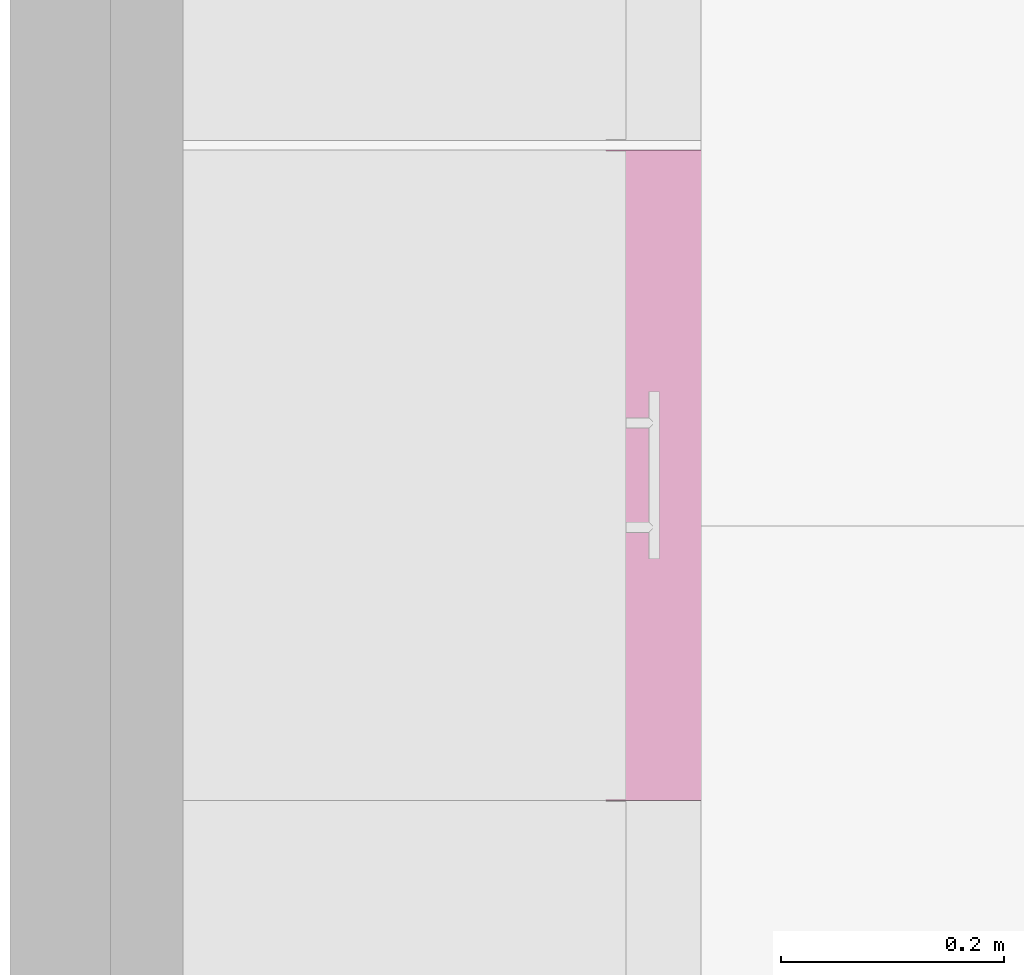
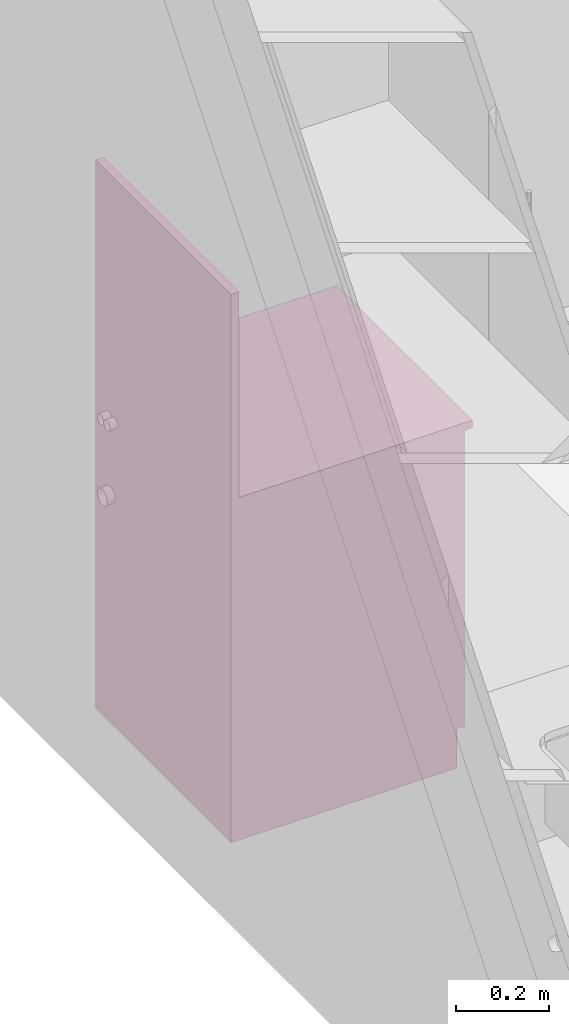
# One storey, part 59 of 60: 1 furnishing.
"""IFC2X3 building model written with IfcOpenShell, lengths in millimetres."""

import ifcopenshell
import ifcopenshell.guid

model = None  # the IFC model being written
_history = None  # IfcOwnerHistory: only IFC2X3 demands one
_inside = {}  # id of a spatial element -> (the spatial element, [elements in it])
_under = {}  # id of a project, library or spatial element -> (it, [spatial elements below it])
_declared = {}  # id of a project -> (the project, [libraries it declares])
_typed = {}  # id of a type object -> (the type object, [elements of that type])
_made_of = {}  # id of a material, layer set ... -> (it, [elements and type objects made of it])


def new_model(schema):
    """Start an empty IFC model of exactly this schema.

    Asked for "IFC4X3", IfcOpenShell would pick the latest addendum, in which some entities
    have other attributes; the version numbers below select the first issue.
    IFC2X3 requires an IfcOwnerHistory on every rooted entity: one is made here for all.
    """
    global model, _history
    if schema == "IFC4X3":
        model = ifcopenshell.file(schema_version=(4, 3, 0, 0))
    else:
        model = ifcopenshell.file(schema=schema)
    _inside.clear()
    _under.clear()
    _declared.clear()
    _typed.clear()
    _made_of.clear()
    _history = None
    if model.schema == "IFC2X3":
        org = make("IfcOrganization", Name="unknown")
        user = make(
            "IfcPersonAndOrganization",
            ThePerson=make("IfcPerson", FamilyName="unknown"),
            TheOrganization=org,
        )
        app = make(
            "IfcApplication",
            ApplicationDeveloper=org,
            Version="unknown",
            ApplicationFullName="unknown",
            ApplicationIdentifier="unknown",
        )
        _history = make(
            "IfcOwnerHistory",
            OwningUser=user,
            OwningApplication=app,
            ChangeAction="ADDED",
            CreationDate=0,
        )
    return model


def make(cls, **values):
    """One entity of the class cls with the attributes given. An attribute that is None is left unset."""
    return model.create_entity(
        cls, **{name: value for name, value in values.items() if value is not None}
    )


def entity(cls, *values):
    """Any entity or typed value of the class cls, its attributes in the order of the schema. None: left unset."""
    e = model.create_entity(cls)
    for i, value in enumerate(values):
        if value is not None:
            e[i] = value
    return e


def rooted(cls, **values):
    """An entity with a GlobalId (a new one), such as an element, a storey or a relation."""
    return make(cls, GlobalId=ifcopenshell.guid.new(), OwnerHistory=_history, **values)


def si_unit(unit_type, name, prefix=None):
    """IfcSIUnit, for example si_unit("LENGTHUNIT", "METRE", prefix="MILLI")."""
    return make("IfcSIUnit", UnitType=unit_type, Prefix=prefix, Name=name)


def converted_unit(unit_type, name, factor, base, dimensions=None, offset=None):
    """IfcConversionBasedUnit, such as the inch: factor (a typed value) times the base unit."""
    return make(
        "IfcConversionBasedUnit"
        if offset is None
        else "IfcConversionBasedUnitWithOffset",
        ConversionOffset=offset,
        Dimensions=None
        if dimensions is None
        else entity("IfcDimensionalExponents", *dimensions),
        UnitType=unit_type,
        Name=name,
        ConversionFactor=make(
            "IfcMeasureWithUnit", ValueComponent=factor, UnitComponent=base
        ),
    )


def derived_unit(unit_type, elements):
    """IfcDerivedUnit: a product of units, each with its exponent."""
    return make(
        "IfcDerivedUnit",
        Elements=[
            make("IfcDerivedUnitElement", Unit=unit, Exponent=power)
            for unit, power in elements
        ],
        UnitType=unit_type,
    )


def money_unit(currency):
    """IfcMonetaryUnit."""
    return make("IfcMonetaryUnit", Currency=currency)


def assignment(units):
    """IfcUnitAssignment: the units of a project."""
    return None if units is None else make("IfcUnitAssignment", Units=units)


def point(xyz):
    """IfcCartesianPoint."""
    return None if xyz is None else make("IfcCartesianPoint", Coordinates=xyz)


def direction(xyz):
    """IfcDirection."""
    return None if xyz is None else make("IfcDirection", DirectionRatios=xyz)


def frame(location, z_axis=None, x_axis=None):
    """IfcAxis2Placement3D, a coordinate frame: its origin and axes. An axis left out is left unset."""
    return make(
        "IfcAxis2Placement3D",
        Location=point(location),
        Axis=direction(z_axis),
        RefDirection=direction(x_axis),
    )


def origin_with_axes():
    """The frame at (0, 0, 0) with the z axis (0, 0, 1) and the x axis (1, 0, 0) written out."""
    return frame((0.0, 0.0, 0.0), z_axis=(0.0, 0.0, 1.0), x_axis=(1.0, 0.0, 0.0))


def place(relative_to, where):
    """IfcLocalPlacement: puts the frame where relative to a parent placement (None: the world)."""
    return make(
        "IfcLocalPlacement", PlacementRelTo=relative_to, RelativePlacement=where
    )


def context(
    kind, dimensions, precision=None, world=None, true_north=None, identifier=None
):
    """IfcGeometricRepresentationContext, for example the 3D "Model" context."""
    return make(
        "IfcGeometricRepresentationContext",
        ContextIdentifier=identifier,
        ContextType=kind,
        CoordinateSpaceDimension=dimensions,
        Precision=precision,
        WorldCoordinateSystem=world,
        TrueNorth=true_north,
    )


def subcontext(parent, identifier, kind, view, scale=None):
    """IfcGeometricRepresentationSubContext, for example "Body" below "Model"."""
    return make(
        "IfcGeometricRepresentationSubContext",
        ContextIdentifier=identifier,
        ContextType=kind,
        ParentContext=parent,
        TargetScale=scale,
        TargetView=view,
    )


def project(units=None, contexts=None):
    """IfcProject with its units and contexts."""
    return rooted(
        "IfcProject",
        Name="project",
        RepresentationContexts=contexts,
        UnitsInContext=assignment(units),
    )


def spatial(cls, under=None, at=None, **own):
    """A site, building, storey or space (cls), placed at a placement, below another one or the project."""
    s = rooted(cls, ObjectPlacement=at, **own)
    if under is not None:
        _under.setdefault(under.id(), (under, []))[1].append(s)
    return s


def faces_of(points, faces, orient=None, outer=None):
    """IfcFace entities. A face is a list of loops; a loop is a list of indices into points, from 0.

    orient and outer hold one flag for each loop. By default every Orientation is true, the
    first loop of a face is its IfcFaceOuterBound and the others are IfcFaceBound.
    """
    made = []
    for i, loops in enumerate(faces):
        bounds = []
        for j, loop in enumerate(loops):
            is_outer = j == 0 if outer is None else outer[i][j]
            bounds.append(
                make(
                    "IfcFaceOuterBound" if is_outer else "IfcFaceBound",
                    Bound=make("IfcPolyLoop", Polygon=[points[k] for k in loop]),
                    Orientation=True if orient is None else orient[i][j],
                )
            )
        made.append(make("IfcFace", Bounds=bounds))
    return made


def open_shell(faces, orient=None, outer=None):
    """The faces of one IfcOpenShell. surface_model builds it on its shared points."""
    return ("IfcOpenShell", faces, orient, outer)


def faceted_brep(points, faces, orient=None, outer=None, voids=None):
    """IfcFacetedBrep: a solid bounded by flat faces; with voids (closed shells), ...WithVoids."""
    shared = [point(p) for p in points]
    hull = make("IfcClosedShell", CfsFaces=faces_of(shared, faces, orient, outer))
    if voids is None:
        return make("IfcFacetedBrep", Outer=hull)
    return make(
        "IfcFacetedBrepWithVoids",
        Outer=hull,
        Voids=[
            make(cls, CfsFaces=faces_of(shared, fs, o, b)) for cls, fs, o, b in voids
        ],
    )


def surface_model(cls, points, shells):
    """IfcFaceBasedSurfaceModel or IfcShellBasedSurfaceModel (cls): surfaces that need not close."""
    shared = [point(p) for p in points]
    made = [make(c, CfsFaces=faces_of(shared, fs, o, b)) for c, fs, o, b in shells]
    if cls == "IfcFaceBasedSurfaceModel":
        return make(cls, FbsmFaces=made)
    return make(cls, SbsmBoundary=made)


def shape(context_of_items, identifier, shape_type, items):
    """IfcShapeRepresentation: the items that make up one representation, for example the "Body"."""
    return make(
        "IfcShapeRepresentation",
        ContextOfItems=context_of_items,
        RepresentationIdentifier=identifier,
        RepresentationType=shape_type,
        Items=items,
    )


def made_of(thing, what):
    """Note that an element or type object is made of a material, layer set ...; save() writes the relation."""
    if what is not None:
        _made_of.setdefault(what.id(), (what, []))[1].append(thing)
    return thing


def type_object(cls, material=None, **own):
    """A type object (cls), such as IfcWallType, which elements share."""
    return made_of(rooted(cls, **own), material)


def element(
    cls,
    number,
    at=None,
    inside=None,
    cuts=None,
    type_object=None,
    material=None,
    context=None,
    identifier="Body",
    shape_type=None,
    held_by="IfcProductDefinitionShape",
    body=None,
    shapes=None,
    **own,
):
    """One element of the class cls, such as IfcWall. Its Tag is "e" and its number.

    at: its placement. inside: the storey or other place that contains it. cuts: it is an
    opening in that element (IfcRelVoidsElement). A single representation is given by context,
    identifier, shape_type and body (its items); several are given by shapes. held_by: the class
    of the entity that holds the representations. save() writes the other relations.
    """
    e = rooted(cls, Tag="e%d" % number, ObjectPlacement=at, **own)
    if body is not None:
        shapes = [shape(context, identifier, shape_type, body)]
    if shapes is not None:
        e.Representation = make(held_by, Representations=shapes)
    if inside is not None:
        _inside.setdefault(inside.id(), (inside, []))[1].append(e)
    if cuts is not None:
        rooted(
            "IfcRelVoidsElement", RelatingBuildingElement=cuts, RelatedOpeningElement=e
        )
    if type_object is not None:
        _typed.setdefault(type_object.id(), (type_object, []))[1].append(e)
    return made_of(e, material)


def aggregate(whole, parts):
    """IfcRelAggregates: a whole, such as a stair, and the parts it consists of."""
    return rooted("IfcRelAggregates", RelatingObject=whole, RelatedObjects=parts)


def save(model, path):
    """Write the relations noted so far, then the file.

    IfcRelAggregates (storeys below a building ...), IfcRelContainedInSpatialStructure (elements
    in a storey), IfcRelDefinesByType, IfcRelAssociatesMaterial and IfcRelDeclares: one each for
    every whole, place, type object, material and project.
    """
    for whole, parts in _under.values():
        aggregate(whole, parts)
    for where, things in _inside.values():
        rooted(
            "IfcRelContainedInSpatialStructure",
            RelatedElements=things,
            RelatingStructure=where,
        )
    for kind, things in _typed.values():
        rooted("IfcRelDefinesByType", RelatedObjects=things, RelatingType=kind)
    for what, things in _made_of.values():
        rooted("IfcRelAssociatesMaterial", RelatedObjects=things, RelatingMaterial=what)
    for by, libraries in _declared.values():
        rooted("IfcRelDeclares", RelatingContext=by, RelatedDefinitions=libraries)
    model.write(path)


model = new_model("IFC2X3")

# Units and contexts
model_context = context("Model", 3, precision=0.01, world=origin_with_axes(), true_north=direction((0.0, 1.0)))
body_context = subcontext(model_context, "Body", "Model", "MODEL_VIEW")
ifc_project = project(units=[si_unit("LENGTHUNIT", "METRE", prefix="MILLI"), si_unit("AREAUNIT", "SQUARE_METRE"), si_unit("VOLUMEUNIT", "CUBIC_METRE"), converted_unit("PLANEANGLEUNIT", "DEGREE", entity("IfcPlaneAngleMeasure", 0.0174532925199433), si_unit("PLANEANGLEUNIT", "RADIAN"), dimensions=[0, 0, 0, 0, 0, 0, 0]), money_unit("USD"), converted_unit("TIMEUNIT", "Year", entity("IfcTimeMeasure", 31557600.0), si_unit("TIMEUNIT", "SECOND"), dimensions=[0, 0, 1, 0, 0, 0, 0]), si_unit("MASSUNIT", "GRAM", prefix="KILO"), si_unit("THERMODYNAMICTEMPERATUREUNIT", "DEGREE_CELSIUS"), si_unit("LUMINOUSINTENSITYUNIT", "LUMEN"), si_unit("ENERGYUNIT", "JOULE", prefix="MEGA"), derived_unit("THERMALCONDUCTANCEUNIT", [(si_unit("POWERUNIT", "WATT"), 1), (si_unit("LENGTHUNIT", "METRE"), -1), (si_unit("THERMODYNAMICTEMPERATUREUNIT", "KELVIN"), -1)]), derived_unit("SPECIFICHEATCAPACITYUNIT", [(si_unit("ENERGYUNIT", "JOULE"), 1), (si_unit("MASSUNIT", "GRAM", prefix="KILO"), -1), (si_unit("THERMODYNAMICTEMPERATUREUNIT", "KELVIN"), -1)]), derived_unit("MASSDENSITYUNIT", [(si_unit("MASSUNIT", "GRAM", prefix="KILO"), 1), (si_unit("VOLUMEUNIT", "CUBIC_METRE"), -1)])], contexts=[model_context])

# Site, building, storey
site_placement = place(None, origin_with_axes())
site = spatial("IfcSite", under=ifc_project, at=site_placement, Name="Sitio", CompositionType="ELEMENT")
building_placement = place(site_placement, origin_with_axes())
building = spatial("IfcBuilding", under=site, at=building_placement, Name="Construcción", CompositionType="ELEMENT")
storey_placement = place(building_placement, frame((0.0, 0.0, 3650.0), z_axis=(0.0, 0.0, 1.0), x_axis=(1.0, 0.0, 0.0)))
storey = spatial("IfcBuildingStorey", under=building, at=storey_placement, Name="PLANTA 2ª", CompositionType="ELEMENT", Elevation=3650.0)

# Furnishing
furnishing_element_type = type_object("IfcFurnishingElementType", Name="Módulo Base Doble Puerta 24")
furnishing_placement = place(storey_placement, frame((-22363.41789761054, 771.0241762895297, 0.0), z_axis=(0.0, 0.0, 1.0), x_axis=(0.0, 1.0, 0.0)))
element("IfcFurnishingElement", 1, at=furnishing_placement, inside=storey, type_object=furnishing_element_type, Name="60.20.52 Armari", context=body_context, shape_type="SurfaceModel", body=[
    surface_model("IfcShellBasedSurfaceModel", [(500.0, 600.0000000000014, 786.5000000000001), (496.505942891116, 600.0000000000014, 786.9600013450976), (496.505942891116, 620.0000000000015, 786.9600013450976), (500.0, 620.0000000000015, 786.5000000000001), (493.25, 600.0000000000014, 788.3086570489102), (493.25, 620.0000000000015, 788.3086570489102), (503.4940571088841, 600.0000000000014, 786.9600013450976), (503.4940571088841, 620.0000000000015, 786.9600013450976), (490.4540584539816, 600.0000000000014, 790.4540584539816), (490.4540584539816, 620.0000000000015, 790.4540584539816), (506.7500000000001, 600.0000000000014, 788.3086570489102), (506.7500000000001, 620.0000000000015, 788.3086570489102), (488.30865704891, 600.0000000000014, 793.25), (488.30865704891, 620.0000000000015, 793.25), (509.5459415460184, 600.0000000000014, 790.4540584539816), (509.5459415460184, 620.0000000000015, 790.4540584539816), (486.9600013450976, 600.0000000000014, 796.505942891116), (486.9600013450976, 620.0000000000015, 796.505942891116), (511.69134295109, 600.0000000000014, 793.25), (511.69134295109, 620.0000000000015, 793.25), (486.5, 600.0000000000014, 800.0), (486.5, 620.0000000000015, 800.0), (513.0399986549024, 600.0000000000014, 796.505942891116), (513.0399986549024, 620.0000000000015, 796.505942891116), (486.9600013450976, 600.0000000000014, 803.4940571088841), (486.9600013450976, 620.0000000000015, 803.4940571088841), (513.5, 600.0000000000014, 800.0), (513.5, 620.0000000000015, 800.0), (488.30865704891, 600.0000000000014, 806.7500000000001), (488.30865704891, 620.0000000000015, 806.7500000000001), (513.0399986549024, 600.0000000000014, 803.4940571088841), (513.0399986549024, 620.0000000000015, 803.4940571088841), (490.4540584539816, 600.0000000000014, 809.5459415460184), (490.4540584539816, 620.0000000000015, 809.5459415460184), (511.6913429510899, 600.0000000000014, 806.7500000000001), (511.6913429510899, 620.0000000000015, 806.7500000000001), (493.2499999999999, 600.0000000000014, 811.69134295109), (493.2499999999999, 620.0000000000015, 811.69134295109), (509.5459415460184, 600.0000000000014, 809.5459415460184), (509.5459415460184, 620.0000000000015, 809.5459415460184), (496.5059428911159, 600.0000000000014, 813.0399986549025), (496.5059428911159, 620.0000000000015, 813.0399986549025), (506.7500000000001, 600.0000000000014, 811.6913429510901), (506.7500000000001, 620.0000000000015, 811.6913429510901), (500.0, 600.0000000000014, 813.5), (500.0, 620.0000000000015, 813.5), (503.4940571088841, 600.0000000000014, 813.0399986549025), (503.4940571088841, 620.0000000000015, 813.0399986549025)], [open_shell([[[0, 1, 2, 3]], [[1, 4, 5, 2]], [[6, 0, 3, 7]], [[4, 8, 9, 5]], [[10, 6, 7, 11]], [[8, 12, 13, 9]], [[14, 10, 11, 15]], [[12, 16, 17, 13]], [[18, 14, 15, 19]], [[16, 20, 21, 17]], [[22, 18, 19, 23]], [[20, 24, 25, 21]], [[26, 22, 23, 27]], [[24, 28, 29, 25]], [[30, 26, 27, 31]], [[28, 32, 33, 29]], [[34, 30, 31, 35]], [[32, 36, 37, 33]], [[38, 34, 35, 39]], [[36, 40, 41, 37]], [[42, 38, 39, 43]], [[40, 44, 45, 41]], [[46, 42, 43, 47]], [[44, 46, 47, 45]]])]),
    surface_model("IfcShellBasedSurfaceModel", [(527.3807475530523, 600.0000000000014, 786.5000000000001), (523.8866904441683, 600.0000000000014, 786.9600013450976), (523.8866904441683, 620.0000000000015, 786.9600013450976), (527.3807475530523, 620.0000000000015, 786.5000000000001), (520.6307475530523, 600.0000000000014, 788.3086570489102), (520.6307475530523, 620.0000000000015, 788.3086570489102), (530.8748046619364, 600.0000000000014, 786.9600013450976), (530.8748046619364, 620.0000000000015, 786.9600013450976), (517.8348060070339, 600.0000000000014, 790.4540584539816), (517.8348060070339, 620.0000000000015, 790.4540584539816), (534.1307475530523, 600.0000000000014, 788.3086570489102), (534.1307475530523, 620.0000000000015, 788.3086570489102), (515.6894046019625, 600.0000000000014, 793.25), (515.6894046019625, 620.0000000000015, 793.25), (536.9266890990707, 600.0000000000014, 790.4540584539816), (536.9266890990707, 620.0000000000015, 790.4540584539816), (514.3407488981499, 600.0000000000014, 796.505942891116), (514.3407488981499, 620.0000000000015, 796.505942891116), (539.0720905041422, 600.0000000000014, 793.25), (539.0720905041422, 620.0000000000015, 793.25), (513.8807475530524, 600.0000000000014, 800.0), (513.8807475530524, 620.0000000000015, 800.0), (540.4207462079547, 600.0000000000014, 796.505942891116), (540.4207462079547, 620.0000000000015, 796.505942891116), (514.3407488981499, 600.0000000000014, 803.4940571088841), (514.3407488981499, 620.0000000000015, 803.4940571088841), (540.8807475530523, 600.0000000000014, 800.0), (540.8807475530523, 620.0000000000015, 800.0), (515.6894046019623, 600.0000000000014, 806.7500000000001), (515.6894046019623, 620.0000000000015, 806.7500000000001), (540.4207462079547, 600.0000000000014, 803.4940571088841), (540.4207462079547, 620.0000000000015, 803.4940571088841), (517.8348060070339, 600.0000000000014, 809.5459415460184), (517.8348060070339, 620.0000000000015, 809.5459415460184), (539.0720905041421, 600.0000000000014, 806.7500000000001), (539.0720905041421, 620.0000000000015, 806.7500000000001), (520.6307475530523, 600.0000000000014, 811.69134295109), (520.6307475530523, 620.0000000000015, 811.69134295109), (536.9266890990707, 600.0000000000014, 809.5459415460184), (536.9266890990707, 620.0000000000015, 809.5459415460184), (523.8866904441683, 600.0000000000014, 813.0399986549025), (523.8866904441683, 620.0000000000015, 813.0399986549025), (534.1307475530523, 600.0000000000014, 811.6913429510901), (534.1307475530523, 620.0000000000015, 811.6913429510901), (527.3807475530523, 600.0000000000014, 813.5), (527.3807475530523, 620.0000000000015, 813.5), (530.8748046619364, 600.0000000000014, 813.0399986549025), (530.8748046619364, 620.0000000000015, 813.0399986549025)], [open_shell([[[0, 1, 2, 3]], [[1, 4, 5, 2]], [[6, 0, 3, 7]], [[4, 8, 9, 5]], [[10, 6, 7, 11]], [[8, 12, 13, 9]], [[14, 10, 11, 15]], [[12, 16, 17, 13]], [[18, 14, 15, 19]], [[16, 20, 21, 17]], [[22, 18, 19, 23]], [[20, 24, 25, 21]], [[26, 22, 23, 27]], [[24, 28, 29, 25]], [[30, 26, 27, 31]], [[28, 32, 33, 29]], [[34, 30, 31, 35]], [[32, 36, 37, 33]], [[38, 34, 35, 39]], [[36, 40, 41, 37]], [[42, 38, 39, 43]], [[40, 44, 45, 41]], [[46, 42, 43, 47]], [[44, 46, 47, 45]]])]),
    surface_model("IfcShellBasedSurfaceModel", [(519.8807475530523, 600.0000000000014, 579.0), (514.4455476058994, 600.0000000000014, 579.7155576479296), (514.4455476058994, 620.0000000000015, 579.7155576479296), (519.8807475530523, 620.0000000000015, 579.0), (509.3807475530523, 600.0000000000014, 581.8134665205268), (509.3807475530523, 620.0000000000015, 581.8134665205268), (525.3159475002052, 600.0000000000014, 579.7155576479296), (525.3159475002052, 620.0000000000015, 579.7155576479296), (505.0315051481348, 600.0000000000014, 585.1507575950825), (505.0315051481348, 620.0000000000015, 585.1507575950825), (530.3807475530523, 600.0000000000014, 581.8134665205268), (530.3807475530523, 620.0000000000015, 581.8134665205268), (501.6942140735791, 600.0000000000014, 589.5), (501.6942140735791, 620.0000000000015, 589.5), (534.7299899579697, 600.0000000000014, 585.1507575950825), (534.7299899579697, 620.0000000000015, 585.1507575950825), (499.5963052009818, 600.0000000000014, 594.5648000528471), (499.5963052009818, 620.0000000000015, 594.5648000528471), (538.0672810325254, 600.0000000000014, 589.5), (538.0672810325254, 620.0000000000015, 589.5), (498.8807475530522, 600.0000000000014, 600.0), (498.8807475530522, 620.0000000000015, 600.0), (540.1651899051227, 600.0000000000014, 594.5648000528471), (540.1651899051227, 620.0000000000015, 594.5648000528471), (499.5963052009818, 600.0000000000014, 605.4351999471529), (499.5963052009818, 620.0000000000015, 605.4351999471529), (540.8807475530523, 600.0000000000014, 600.0), (540.8807475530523, 620.0000000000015, 600.0), (501.6942140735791, 600.0000000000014, 610.4999999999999), (501.6942140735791, 620.0000000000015, 610.4999999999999), (540.1651899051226, 600.0000000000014, 605.4351999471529), (540.1651899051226, 620.0000000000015, 605.4351999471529), (505.0315051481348, 600.0000000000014, 614.8492424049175), (505.0315051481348, 620.0000000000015, 614.8492424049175), (538.0672810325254, 600.0000000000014, 610.5), (538.0672810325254, 620.0000000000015, 610.5), (509.3807475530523, 600.0000000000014, 618.1865334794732), (509.3807475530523, 620.0000000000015, 618.1865334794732), (534.7299899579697, 600.0000000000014, 614.8492424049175), (534.7299899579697, 620.0000000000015, 614.8492424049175), (514.4455476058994, 600.0000000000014, 620.2844423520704), (514.4455476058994, 620.0000000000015, 620.2844423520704), (530.3807475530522, 600.0000000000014, 618.1865334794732), (530.3807475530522, 620.0000000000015, 618.1865334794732), (519.8807475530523, 600.0000000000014, 621.0), (519.8807475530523, 620.0000000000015, 621.0), (525.3159475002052, 600.0000000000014, 620.2844423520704), (525.3159475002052, 620.0000000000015, 620.2844423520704)], [open_shell([[[0, 1, 2, 3]], [[1, 4, 5, 2]], [[6, 0, 3, 7]], [[4, 8, 9, 5]], [[10, 6, 7, 11]], [[8, 12, 13, 9]], [[14, 10, 11, 15]], [[12, 16, 17, 13]], [[18, 14, 15, 19]], [[16, 20, 21, 17]], [[22, 18, 19, 23]], [[20, 24, 25, 21]], [[26, 22, 23, 27]], [[24, 28, 29, 25]], [[30, 26, 27, 31]], [[28, 32, 33, 29]], [[34, 30, 31, 35]], [[32, 36, 37, 33]], [[38, 34, 35, 39]], [[36, 40, 41, 37]], [[42, 38, 39, 43]], [[40, 44, 45, 41]], [[46, 42, 43, 47]], [[44, 46, 47, 45]]])]),
    faceted_brep([(0.0, 39.0, 0.0), (583.828879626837, 39.0, 0.0), (583.828879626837, 39.0, 100.0), (0.0, 39.0, 100.0), (0.0, 600.0000000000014, 0.0), (583.828879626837, 600.0000000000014, 0.0), (583.828879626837, 600.0000000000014, 100.0), (0.0, 600.0000000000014, 100.0)], [[[0, 1, 2, 3]], [[0, 4, 5, 1]], [[1, 5, 6, 2]], [[3, 2, 6, 7]], [[4, 0, 3, 7]], [[5, 4, 7, 6]]]),
    faceted_brep([(0.0, 39.0, 860.0), (20.0, 39.0, 860.0), (20.0, 39.0, 880.0), (0.0, 39.0, 880.0), (0.0, 600.0000000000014, 860.0), (20.0, 600.0000000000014, 860.0), (563.828879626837, 600.0000000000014, 860.0), (583.828879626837, 600.0000000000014, 860.0), (583.828879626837, 39.0, 860.0), (563.828879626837, 39.0, 860.0), (563.828879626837, 39.0, 880.0), (583.828879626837, 39.0, 880.0), (583.828879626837, 600.0000000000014, 880.0), (563.828879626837, 600.0000000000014, 880.0), (20.0, 600.0000000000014, 880.0), (0.0, 600.0000000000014, 880.0)], [[[0, 1, 2, 3]], [[0, 4, 5, 6, 7, 8, 9, 1]], [[1, 9, 10, 2]], [[3, 2, 10, 11, 12, 13, 14, 15]], [[4, 0, 3, 15]], [[5, 4, 15, 14]], [[6, 5, 14, 13]], [[7, 6, 13, 12]], [[8, 7, 12, 11]], [[9, 8, 11, 10]]]),
    faceted_brep([(0.0, 39.0, 100.0), (20.0, 39.0, 100.0), (20.0, 39.0, 120.0), (0.0, 39.0, 120.0), (0.0, 600.0000000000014, 100.0), (20.0, 600.0000000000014, 100.0), (563.828879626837, 600.0000000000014, 100.0), (583.828879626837, 600.0000000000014, 100.0), (583.828879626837, 39.0, 100.0), (563.828879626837, 39.0, 100.0), (563.828879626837, 39.0, 120.0), (583.828879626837, 39.0, 120.0), (583.828879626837, 600.0000000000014, 120.0), (563.828879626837, 600.0000000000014, 120.0), (20.0, 600.0000000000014, 120.0), (0.0, 600.0000000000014, 120.0)], [[[0, 1, 2, 3]], [[0, 4, 5, 6, 7, 8, 9, 1]], [[1, 9, 10, 2]], [[3, 2, 10, 11, 12, 13, 14, 15]], [[4, 0, 3, 15]], [[5, 4, 15, 14]], [[6, 5, 14, 13]], [[7, 6, 13, 12]], [[8, 7, 12, 11]], [[9, 8, 11, 10]]]),
    faceted_brep([(0.0, 39.0, 120.0), (20.0, 39.0, 120.0), (20.0, 39.0, 860.0), (0.0, 39.0, 860.0), (0.0, 600.0000000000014, 120.0), (583.828879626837, 600.0000000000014, 120.0), (583.828879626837, 39.0, 120.0), (563.828879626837, 39.0, 120.0), (563.828879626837, 580.0000000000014, 120.0), (20.0, 580.0000000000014, 120.0), (20.0, 580.0000000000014, 860.0), (563.828879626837, 580.0000000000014, 860.0), (563.828879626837, 39.0, 860.0), (583.828879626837, 39.0, 860.0), (583.828879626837, 600.0000000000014, 860.0), (0.0, 600.0000000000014, 860.0)], [[[0, 1, 2, 3]], [[0, 4, 5, 6, 7, 8, 9, 1]], [[1, 9, 10, 2]], [[3, 2, 10, 11, 12, 13, 14, 15]], [[4, 0, 3, 15]], [[5, 4, 15, 14]], [[6, 5, 14, 13]], [[7, 6, 13, 12]], [[8, 7, 12, 11]], [[9, 8, 11, 10]]]),
    faceted_brep([(563.828879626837, 39.0, 470.0), (563.828879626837, 580.0000000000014, 470.0), (563.828879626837, 580.0000000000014, 490.0), (563.828879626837, 39.0, 490.0), (20.0, 39.0, 470.0), (20.0, 580.0000000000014, 470.0), (20.0, 580.0000000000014, 490.0), (20.0, 39.0, 490.0)], [[[0, 1, 2, 3]], [[0, 4, 5, 1]], [[1, 5, 6, 2]], [[3, 2, 6, 7]], [[4, 0, 3, 7]], [[5, 4, 7, 6]]]),
    faceted_brep([(0.0, 0.0, 880.0), (583.828879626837, 0.0, 880.0), (583.828879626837, 0.0, 900.0), (0.0, 0.0, 900.0), (0.0, 600.0000000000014, 880.0), (583.828879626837, 600.0000000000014, 880.0), (583.828879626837, 600.0000000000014, 900.0), (0.0, 600.0000000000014, 900.0)], [[[0, 1, 2, 3]], [[0, 4, 5, 1]], [[1, 5, 6, 2]], [[3, 2, 6, 7]], [[4, 0, 3, 7]], [[5, 4, 7, 6]]]),
    faceted_brep([(0.0, 580.0000000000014, 900.0), (583.828879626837, 580.0000000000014, 900.0), (583.828879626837, 580.0000000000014, 1440.0), (0.0, 580.0000000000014, 1440.0), (0.0, 600.0000000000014, 900.0), (583.828879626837, 600.0000000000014, 900.0), (583.828879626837, 600.0000000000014, 1440.0), (0.0, 600.0000000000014, 1440.0)], [[[0, 1, 2, 3]], [[0, 4, 5, 1]], [[1, 5, 6, 2]], [[3, 2, 6, 7]], [[4, 0, 3, 7]], [[5, 4, 7, 6]]]),
    faceted_brep([(1.500000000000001, 39.0, 101.5), (290.4144398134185, 39.0, 101.5), (290.4144398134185, 19.0, 101.5), (1.500000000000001, 19.0, 101.5), (1.500000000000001, 39.00000000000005, 878.5000000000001), (290.4144398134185, 39.00000000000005, 878.5000000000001), (290.4144398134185, 19.00000000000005, 878.5000000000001), (1.500000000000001, 19.00000000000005, 878.5000000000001)], [[[0, 1, 2, 3]], [[0, 4, 5, 1]], [[1, 5, 6, 2]], [[3, 2, 6, 7]], [[4, 0, 3, 7]], [[5, 4, 7, 6]]]),
    faceted_brep([(243.1860784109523, -9.148050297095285, 391.5), (242.5357601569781, -10.12132034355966, 391.5), (241.5624901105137, -10.77163859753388, 391.5), (240.4144398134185, -11.00000000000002, 391.5), (239.2663895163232, -10.77163859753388, 391.5), (238.2931194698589, -10.12132034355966, 391.5), (237.6428012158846, -9.148050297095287, 391.5), (237.4144398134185, -8.000000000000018, 391.5), (237.6428012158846, -6.851949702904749, 391.5), (238.2931194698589, -5.878679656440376, 391.5), (239.2663895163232, -5.228361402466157, 391.5), (240.4144398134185, -5.000000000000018, 391.5), (241.5624901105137, -5.228361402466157, 391.5), (242.5357601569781, -5.878679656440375, 391.5), (243.1860784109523, -6.851949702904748, 391.5), (243.4144398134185, -8.000000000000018, 391.5), (243.1860784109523, -9.148050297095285, 691.5), (242.5357601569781, -10.12132034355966, 691.5), (241.5624901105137, -10.77163859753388, 691.5), (240.4144398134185, -11.00000000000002, 691.5), (239.2663895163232, -10.77163859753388, 691.5), (238.2931194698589, -10.12132034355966, 691.5), (237.6428012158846, -9.148050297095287, 691.5), (237.4144398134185, -8.000000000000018, 691.5), (237.6428012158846, -6.851949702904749, 691.5), (238.2931194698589, -5.878679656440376, 691.5), (239.2663895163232, -5.228361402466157, 691.5), (240.4144398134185, -5.000000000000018, 691.5), (241.5624901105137, -5.228361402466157, 691.5), (242.5357601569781, -5.878679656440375, 691.5), (243.1860784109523, -6.851949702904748, 691.5), (243.4144398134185, -8.000000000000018, 691.5)], [[[0, 1, 2, 3, 4, 5, 6, 7, 8, 9, 10, 11, 12, 13, 14, 15]], [[1, 0, 16, 17]], [[2, 1, 17, 18]], [[3, 2, 18, 19]], [[4, 3, 19, 20]], [[5, 4, 20, 21]], [[6, 5, 21, 22]], [[7, 6, 22, 23]], [[8, 7, 23, 24]], [[9, 8, 24, 25]], [[10, 9, 25, 26]], [[11, 10, 26, 27]], [[12, 11, 27, 28]], [[13, 12, 28, 29]], [[14, 13, 29, 30]], [[15, 14, 30, 31]], [[0, 15, 31, 16]], [[16, 31, 30, 29, 28, 27, 26, 25, 24, 23, 22, 21, 20, 19, 18, 17]]]),
    surface_model("IfcShellBasedSurfaceModel", [(241.3711483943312, -5.156637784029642, 414.1903011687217), (240.4144398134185, -5.000000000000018, 413.9999999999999), (240.4144398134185, 18.99999999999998, 413.9999999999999), (241.3711483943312, 18.99999999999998, 414.1903011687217), (239.4577312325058, -5.156637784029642, 414.1903011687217), (239.4577312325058, 18.99999999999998, 414.1903011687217), (238.6466728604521, 18.99999999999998, 414.7322330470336), (238.1047409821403, 18.99999999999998, 415.5432914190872), (237.9144398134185, 18.99999999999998, 416.4999999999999), (238.1047409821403, 18.99999999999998, 417.4567085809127), (238.6466728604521, 18.99999999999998, 418.2677669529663), (239.4577312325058, 18.99999999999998, 418.8096988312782), (240.4144398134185, 18.99999999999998, 418.9999999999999), (241.3711483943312, 18.99999999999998, 418.8096988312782), (242.1822067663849, 18.99999999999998, 418.2677669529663), (242.7241386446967, 18.99999999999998, 417.4567085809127), (242.9144398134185, 18.99999999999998, 416.4999999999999), (242.7241386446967, 18.99999999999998, 415.5432914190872), (242.1822067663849, 18.99999999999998, 414.7322330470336), (242.1822067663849, -5.576160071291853, 414.7322330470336), (238.6466728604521, -5.576160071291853, 414.7322330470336), (238.1047409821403, -6.085504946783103, 415.5432914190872), (237.9144398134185, -6.341687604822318, 416.4999999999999), (238.1047409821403, -6.085504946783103, 417.4567085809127), (238.6466728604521, -5.576160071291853, 418.2677669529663), (239.4577312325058, -5.156637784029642, 418.8096988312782), (240.4144398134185, -5.000000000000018, 418.9999999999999), (241.3711483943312, -5.156637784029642, 418.8096988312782), (242.1822067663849, -5.576160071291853, 418.2677669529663), (242.7241386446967, -6.085504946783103, 417.4567085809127), (242.9144398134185, -6.341687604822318, 416.4999999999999), (242.7241386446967, -6.085504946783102, 415.5432914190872)], [open_shell([[[0, 1, 2, 3]], [[1, 4, 5, 2]], [[3, 2, 5, 6, 7, 8, 9, 10, 11, 12, 13, 14, 15, 16, 17, 18]], [[19, 0, 3, 18]], [[4, 20, 6, 5]], [[20, 21, 7, 6]], [[21, 22, 8, 7]], [[22, 23, 9, 8]], [[23, 24, 10, 9]], [[24, 25, 11, 10]], [[25, 26, 12, 11]], [[26, 27, 13, 12]], [[27, 28, 14, 13]], [[28, 29, 15, 14]], [[29, 30, 16, 15]], [[30, 31, 17, 16]], [[31, 19, 18, 17]]])]),
    surface_model("IfcShellBasedSurfaceModel", [(241.3711483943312, -5.156637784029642, 664.1903011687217), (240.4144398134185, -5.000000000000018, 663.9999999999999), (240.4144398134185, 18.99999999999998, 663.9999999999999), (241.3711483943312, 18.99999999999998, 664.1903011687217), (239.4577312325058, -5.156637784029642, 664.1903011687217), (239.4577312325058, 18.99999999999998, 664.1903011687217), (238.6466728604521, 18.99999999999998, 664.7322330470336), (238.1047409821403, 18.99999999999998, 665.5432914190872), (237.9144398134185, 18.99999999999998, 666.4999999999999), (238.1047409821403, 18.99999999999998, 667.4567085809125), (238.6466728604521, 18.99999999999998, 668.2677669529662), (239.4577312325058, 18.99999999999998, 668.8096988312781), (240.4144398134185, 18.99999999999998, 668.9999999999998), (241.3711483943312, 18.99999999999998, 668.8096988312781), (242.1822067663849, 18.99999999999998, 668.2677669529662), (242.7241386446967, 18.99999999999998, 667.4567085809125), (242.9144398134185, 18.99999999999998, 666.4999999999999), (242.7241386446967, 18.99999999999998, 665.5432914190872), (242.1822067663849, 18.99999999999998, 664.7322330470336), (242.1822067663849, -5.576160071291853, 664.7322330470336), (238.6466728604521, -5.576160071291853, 664.7322330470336), (238.1047409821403, -6.085504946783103, 665.5432914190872), (237.9144398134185, -6.341687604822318, 666.4999999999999), (238.1047409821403, -6.085504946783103, 667.4567085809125), (238.6466728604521, -5.576160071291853, 668.2677669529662), (239.4577312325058, -5.156637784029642, 668.8096988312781), (240.4144398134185, -5.000000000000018, 668.9999999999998), (241.3711483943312, -5.156637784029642, 668.8096988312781), (242.1822067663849, -5.576160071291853, 668.2677669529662), (242.7241386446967, -6.085504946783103, 667.4567085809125), (242.9144398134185, -6.341687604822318, 666.4999999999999), (242.7241386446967, -6.085504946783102, 665.5432914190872)], [open_shell([[[0, 1, 2, 3]], [[1, 4, 5, 2]], [[3, 2, 5, 6, 7, 8, 9, 10, 11, 12, 13, 14, 15, 16, 17, 18]], [[19, 0, 3, 18]], [[4, 20, 6, 5]], [[20, 21, 7, 6]], [[21, 22, 8, 7]], [[22, 23, 9, 8]], [[23, 24, 10, 9]], [[24, 25, 11, 10]], [[25, 26, 12, 11]], [[26, 27, 13, 12]], [[27, 28, 14, 13]], [[28, 29, 15, 14]], [[29, 30, 16, 15]], [[30, 31, 17, 16]], [[31, 19, 18, 17]]])]),
    faceted_brep([(582.328879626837, 39.0, 101.5), (582.328879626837, 19.0, 101.5), (293.4144398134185, 19.0, 101.5), (293.4144398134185, 39.0, 101.5), (582.328879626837, 39.00000000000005, 878.5000000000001), (582.328879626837, 19.00000000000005, 878.5000000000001), (293.4144398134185, 19.00000000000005, 878.5000000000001), (293.4144398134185, 39.00000000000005, 878.5000000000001)], [[[0, 1, 2, 3]], [[4, 5, 1, 0]], [[1, 5, 6, 2]], [[3, 2, 6, 7]], [[0, 3, 7, 4]], [[7, 6, 5, 4]]]),
    faceted_brep([(340.6428012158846, -9.148050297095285, 391.5), (340.4144398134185, -8.000000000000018, 391.5), (340.6428012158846, -6.851949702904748, 391.5), (341.2931194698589, -5.878679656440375, 391.5), (342.2663895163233, -5.228361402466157, 391.5), (343.4144398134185, -5.000000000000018, 391.5), (344.5624901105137, -5.228361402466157, 391.5), (345.5357601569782, -5.878679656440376, 391.5), (346.1860784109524, -6.851949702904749, 391.5), (346.4144398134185, -8.000000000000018, 391.5), (346.1860784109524, -9.148050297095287, 391.5), (345.5357601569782, -10.12132034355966, 391.5), (344.5624901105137, -10.77163859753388, 391.5), (343.4144398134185, -11.00000000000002, 391.5), (342.2663895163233, -10.77163859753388, 391.5), (341.2931194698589, -10.12132034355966, 391.5), (340.6428012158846, -9.148050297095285, 691.5), (340.4144398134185, -8.000000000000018, 691.5), (340.6428012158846, -6.851949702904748, 691.5), (341.2931194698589, -5.878679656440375, 691.5), (342.2663895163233, -5.228361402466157, 691.5), (343.4144398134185, -5.000000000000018, 691.5), (344.5624901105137, -5.228361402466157, 691.5), (345.5357601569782, -5.878679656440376, 691.5), (346.1860784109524, -6.851949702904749, 691.5), (346.4144398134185, -8.000000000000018, 691.5), (346.1860784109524, -9.148050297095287, 691.5), (345.5357601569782, -10.12132034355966, 691.5), (344.5624901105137, -10.77163859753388, 691.5), (343.4144398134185, -11.00000000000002, 691.5), (342.2663895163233, -10.77163859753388, 691.5), (341.2931194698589, -10.12132034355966, 691.5)], [[[0, 1, 2, 3, 4, 5, 6, 7, 8, 9, 10, 11, 12, 13, 14, 15]], [[0, 16, 17, 1]], [[1, 17, 18, 2]], [[2, 18, 19, 3]], [[3, 19, 20, 4]], [[4, 20, 21, 5]], [[5, 21, 22, 6]], [[6, 22, 23, 7]], [[7, 23, 24, 8]], [[8, 24, 25, 9]], [[9, 25, 26, 10]], [[10, 26, 27, 11]], [[11, 27, 28, 12]], [[12, 28, 29, 13]], [[13, 29, 30, 14]], [[14, 30, 31, 15]], [[15, 31, 16, 0]], [[16, 31, 30, 29, 28, 27, 26, 25, 24, 23, 22, 21, 20, 19, 18, 17]]]),
    surface_model("IfcShellBasedSurfaceModel", [(342.4577312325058, -5.156637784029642, 414.1903011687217), (342.4577312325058, 18.99999999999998, 414.1903011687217), (343.4144398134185, 18.99999999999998, 413.9999999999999), (343.4144398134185, -5.000000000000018, 413.9999999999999), (341.6466728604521, -5.576160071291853, 414.7322330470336), (341.6466728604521, 18.99999999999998, 414.7322330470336), (341.1047409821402, 18.99999999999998, 415.5432914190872), (340.9144398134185, 18.99999999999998, 416.4999999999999), (341.1047409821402, 18.99999999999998, 417.4567085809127), (341.6466728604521, 18.99999999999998, 418.2677669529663), (342.4577312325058, 18.99999999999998, 418.8096988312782), (343.4144398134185, 18.99999999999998, 418.9999999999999), (344.3711483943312, 18.99999999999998, 418.8096988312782), (345.1822067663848, 18.99999999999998, 418.2677669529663), (345.7241386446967, 18.99999999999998, 417.4567085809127), (345.9144398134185, 18.99999999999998, 416.4999999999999), (345.7241386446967, 18.99999999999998, 415.5432914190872), (345.1822067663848, 18.99999999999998, 414.7322330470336), (344.3711483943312, 18.99999999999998, 414.1903011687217), (344.3711483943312, -5.156637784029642, 414.1903011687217), (341.1047409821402, -6.085504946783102, 415.5432914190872), (340.9144398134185, -6.341687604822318, 416.4999999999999), (341.1047409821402, -6.085504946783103, 417.4567085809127), (341.6466728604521, -5.576160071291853, 418.2677669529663), (342.4577312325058, -5.156637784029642, 418.8096988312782), (343.4144398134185, -5.000000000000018, 418.9999999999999), (344.3711483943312, -5.156637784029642, 418.8096988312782), (345.1822067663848, -5.576160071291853, 418.2677669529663), (345.7241386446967, -6.085504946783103, 417.4567085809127), (345.9144398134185, -6.341687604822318, 416.4999999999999), (345.7241386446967, -6.085504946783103, 415.5432914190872), (345.1822067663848, -5.576160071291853, 414.7322330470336)], [open_shell([[[0, 1, 2, 3]], [[4, 5, 1, 0]], [[1, 5, 6, 7, 8, 9, 10, 11, 12, 13, 14, 15, 16, 17, 18, 2]], [[3, 2, 18, 19]], [[20, 6, 5, 4]], [[21, 7, 6, 20]], [[22, 8, 7, 21]], [[23, 9, 8, 22]], [[24, 10, 9, 23]], [[25, 11, 10, 24]], [[26, 12, 11, 25]], [[27, 13, 12, 26]], [[28, 14, 13, 27]], [[29, 15, 14, 28]], [[30, 16, 15, 29]], [[31, 17, 16, 30]], [[19, 18, 17, 31]]])]),
    surface_model("IfcShellBasedSurfaceModel", [(342.4577312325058, -5.156637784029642, 664.1903011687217), (342.4577312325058, 18.99999999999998, 664.1903011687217), (343.4144398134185, 18.99999999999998, 663.9999999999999), (343.4144398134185, -5.000000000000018, 663.9999999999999), (341.6466728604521, -5.576160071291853, 664.7322330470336), (341.6466728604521, 18.99999999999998, 664.7322330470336), (341.1047409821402, 18.99999999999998, 665.5432914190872), (340.9144398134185, 18.99999999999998, 666.4999999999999), (341.1047409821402, 18.99999999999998, 667.4567085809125), (341.6466728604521, 18.99999999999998, 668.2677669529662), (342.4577312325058, 18.99999999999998, 668.8096988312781), (343.4144398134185, 18.99999999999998, 668.9999999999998), (344.3711483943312, 18.99999999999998, 668.8096988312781), (345.1822067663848, 18.99999999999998, 668.2677669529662), (345.7241386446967, 18.99999999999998, 667.4567085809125), (345.9144398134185, 18.99999999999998, 666.4999999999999), (345.7241386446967, 18.99999999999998, 665.5432914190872), (345.1822067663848, 18.99999999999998, 664.7322330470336), (344.3711483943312, 18.99999999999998, 664.1903011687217), (344.3711483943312, -5.156637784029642, 664.1903011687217), (341.1047409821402, -6.085504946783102, 665.5432914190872), (340.9144398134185, -6.341687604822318, 666.4999999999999), (341.1047409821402, -6.085504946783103, 667.4567085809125), (341.6466728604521, -5.576160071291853, 668.2677669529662), (342.4577312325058, -5.156637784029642, 668.8096988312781), (343.4144398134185, -5.000000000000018, 668.9999999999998), (344.3711483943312, -5.156637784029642, 668.8096988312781), (345.1822067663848, -5.576160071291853, 668.2677669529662), (345.7241386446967, -6.085504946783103, 667.4567085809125), (345.9144398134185, -6.341687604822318, 666.4999999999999), (345.7241386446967, -6.085504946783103, 665.5432914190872), (345.1822067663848, -5.576160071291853, 664.7322330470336)], [open_shell([[[0, 1, 2, 3]], [[4, 5, 1, 0]], [[1, 5, 6, 7, 8, 9, 10, 11, 12, 13, 14, 15, 16, 17, 18, 2]], [[3, 2, 18, 19]], [[20, 6, 5, 4]], [[21, 7, 6, 20]], [[22, 8, 7, 21]], [[23, 9, 8, 22]], [[24, 10, 9, 23]], [[25, 11, 10, 24]], [[26, 12, 11, 25]], [[27, 13, 12, 26]], [[28, 14, 13, 27]], [[29, 15, 14, 28]], [[30, 16, 15, 29]], [[31, 17, 16, 30]], [[19, 18, 17, 31]]])]),
])

save(model, "model.ifc")
